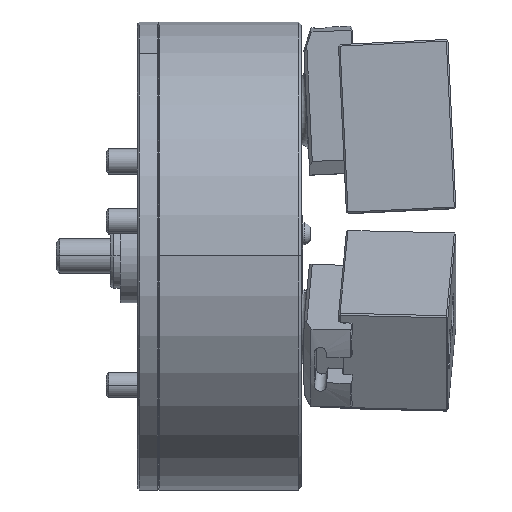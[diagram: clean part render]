
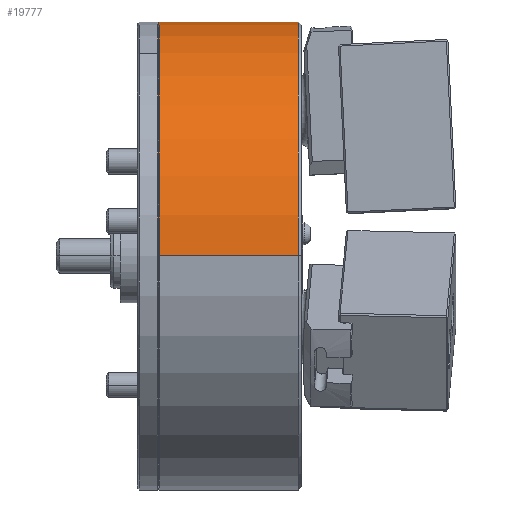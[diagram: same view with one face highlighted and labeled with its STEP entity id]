
A CAD part, top view. The second image highlights one B-rep face of the part: STEP entity #19777.
In plain terms, the highlighted cylindrical face has radius 150 mm (diameter 300 mm), a partial arc.
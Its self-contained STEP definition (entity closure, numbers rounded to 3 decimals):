
#3641 = LINE ( 'NONE', #31341, #12946 ) ;
#5005 = CYLINDRICAL_SURFACE ( 'NONE', #48026, 150. ) ;
#5662 = ORIENTED_EDGE ( 'NONE', *, *, #41671, .T. ) ;
#10753 = CARTESIAN_POINT ( 'NONE',  ( 63.843, 0., 0. ) ) ;
#11027 = CARTESIAN_POINT ( 'NONE',  ( -2., 0., -150. ) ) ;
#12946 = VECTOR ( 'NONE', #51390, 1000. ) ;
#15185 = VERTEX_POINT ( 'NONE', #11027 ) ;
#17151 = CIRCLE ( 'NONE', #31440, 150. ) ;
#18102 = EDGE_CURVE ( 'NONE', #45625, #15185, #31392, .T. ) ;
#19202 = VERTEX_POINT ( 'NONE', #32600 ) ;
#19213 = DIRECTION ( 'NONE',  ( 1., 0., 0. ) ) ;
#19362 = VERTEX_POINT ( 'NONE', #50355 ) ;
#19777 = ADVANCED_FACE ( 'NONE', ( #36786 ), #5005, .T. ) ;
#20386 = AXIS2_PLACEMENT_3D ( 'NONE', #43083, #19213, #47096 ) ;
#20537 = CARTESIAN_POINT ( 'NONE',  ( -91.2, 0., -150. ) ) ;
#20706 = EDGE_LOOP ( 'NONE', ( #5662, #24186, #32412, #37300 ) ) ;
#21778 = DIRECTION ( 'NONE',  ( 1., 0., 0. ) ) ;
#24186 = ORIENTED_EDGE ( 'NONE', *, *, #38693, .T. ) ;
#24187 = EDGE_CURVE ( 'NONE', #15185, #19362, #17151, .T. ) ;
#30596 = DIRECTION ( 'NONE',  ( 0., 0., -1. ) ) ;
#31341 = CARTESIAN_POINT ( 'NONE',  ( 63.843, 0., 150. ) ) ;
#31392 = LINE ( 'NONE', #33135, #51348 ) ;
#31440 = AXIS2_PLACEMENT_3D ( 'NONE', #45662, #21778, #49660 ) ;
#32412 = ORIENTED_EDGE ( 'NONE', *, *, #24187, .F. ) ;
#32600 = CARTESIAN_POINT ( 'NONE',  ( -91.2, 0., 150. ) ) ;
#33135 = CARTESIAN_POINT ( 'NONE',  ( 63.843, 0., -150. ) ) ;
#33903 = CIRCLE ( 'NONE', #20386, 150. ) ;
#36786 = FACE_OUTER_BOUND ( 'NONE', #20706, .T. ) ;
#37300 = ORIENTED_EDGE ( 'NONE', *, *, #18102, .F. ) ;
#38693 = EDGE_CURVE ( 'NONE', #19202, #19362, #3641, .T. ) ;
#41144 = DIRECTION ( 'NONE',  ( 1., 0., 0. ) ) ;
#41671 = EDGE_CURVE ( 'NONE', #45625, #19202, #33903, .T. ) ;
#43083 = CARTESIAN_POINT ( 'NONE',  ( -91.2, 0., 0. ) ) ;
#45625 = VERTEX_POINT ( 'NONE', #20537 ) ;
#45662 = CARTESIAN_POINT ( 'NONE',  ( -2., 0., 0. ) ) ;
#47096 = DIRECTION ( 'NONE',  ( 0., 0., -1. ) ) ;
#48026 = AXIS2_PLACEMENT_3D ( 'NONE', #10753, #50470, #30596 ) ;
#49660 = DIRECTION ( 'NONE',  ( 0., 0., -1. ) ) ;
#50355 = CARTESIAN_POINT ( 'NONE',  ( -2., 0., 150. ) ) ;
#50470 = DIRECTION ( 'NONE',  ( 1., 0., 0. ) ) ;
#51348 = VECTOR ( 'NONE', #41144, 1000. ) ;
#51390 = DIRECTION ( 'NONE',  ( 1., 0., 0. ) ) ;
